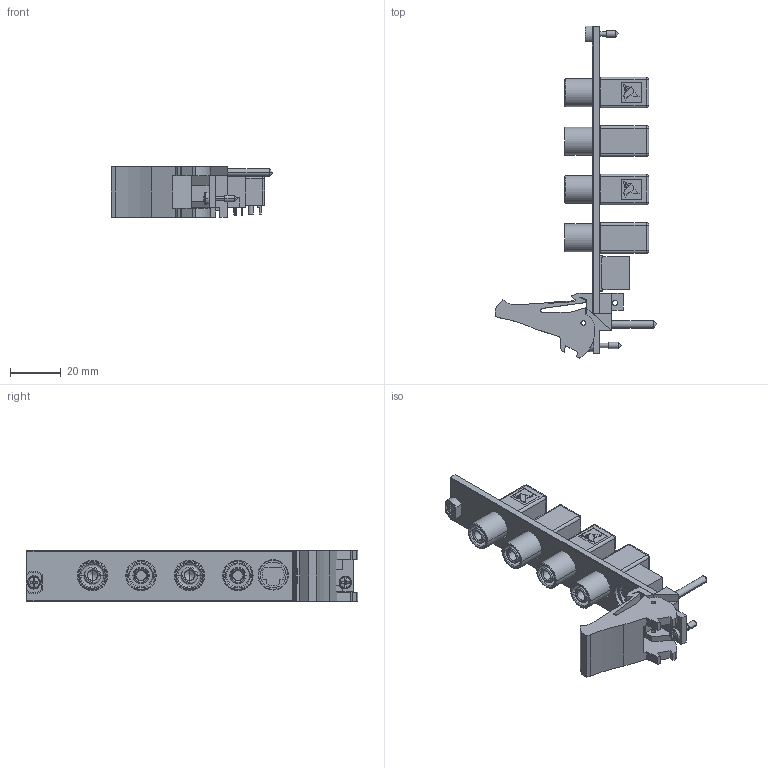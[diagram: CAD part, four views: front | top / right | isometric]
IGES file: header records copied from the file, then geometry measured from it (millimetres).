
Start section:  PTC IGES file: cu_pxi_4065.igs
Global section: file name: cu_pxi_4065.igs; native system: Pro/ENGINEER by Parametric Technology Corporation; preprocessor: 2006080; author: jjorden; organization: Unknown; date: 091021.144213; units: inch
Bounding box: 63.53 x 130.5 x 20.02 mm (x, y, z)
Surface area: 24486.5 mm2 (no closed solid volume)
Topology: 0 solids, 0 shells, 769 faces, 3888 edges, 3876 vertices
Faces by surface type: bspline 429, revolution 268, extrusion 72
